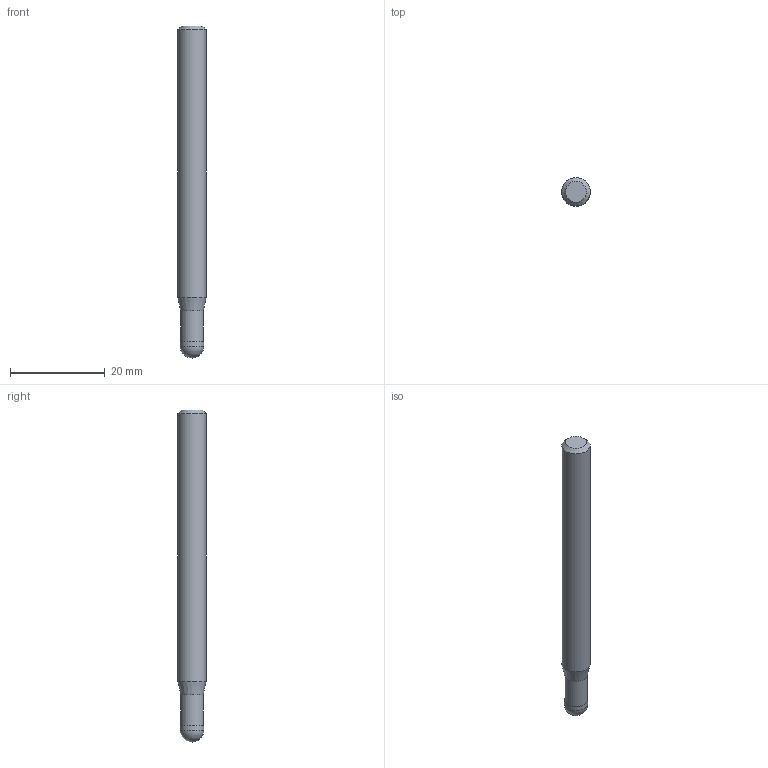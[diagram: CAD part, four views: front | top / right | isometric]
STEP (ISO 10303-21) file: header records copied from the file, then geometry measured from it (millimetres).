
FILE_DESCRIPTION((''),'2;1');
FILE_NAME('C:\Users\nsx150\AppData\Local\Temp\Mastercam 2021\3SYKECWX22\TEMP.step','2021-04-22T10:05:38',(''),(''),'STEP Write','Mastercam 2021 ... CNC Software, Inc.','');
FILE_SCHEMA(('AUTOMOTIVE_DESIGN'));
Length unit declared in the file: millimetre
Products named in the file (1): None
Bounding box: 6 x 6 x 70 mm (x, y, z)
Volume: 1846 mm3; surface area: 1336.1 mm2
Topology: 2 solids, 2 shells, 9 faces, 14 edges, 8 vertices
Faces by surface type: plane 3, cylinder 3, cone 2, sphere 1
Full cylindrical faces by diameter (mm): 4.8 x1, 5 x1, 6 x1
Entity records: 211 total; most frequent: DIRECTION 36, CARTESIAN_POINT 25, AXIS2_PLACEMENT_3D 18, ORIENTED_EDGE 14, EDGE_LOOP 14, STYLED_ITEM 12, ADVANCED_FACE 9, FACE_BOUND 8
